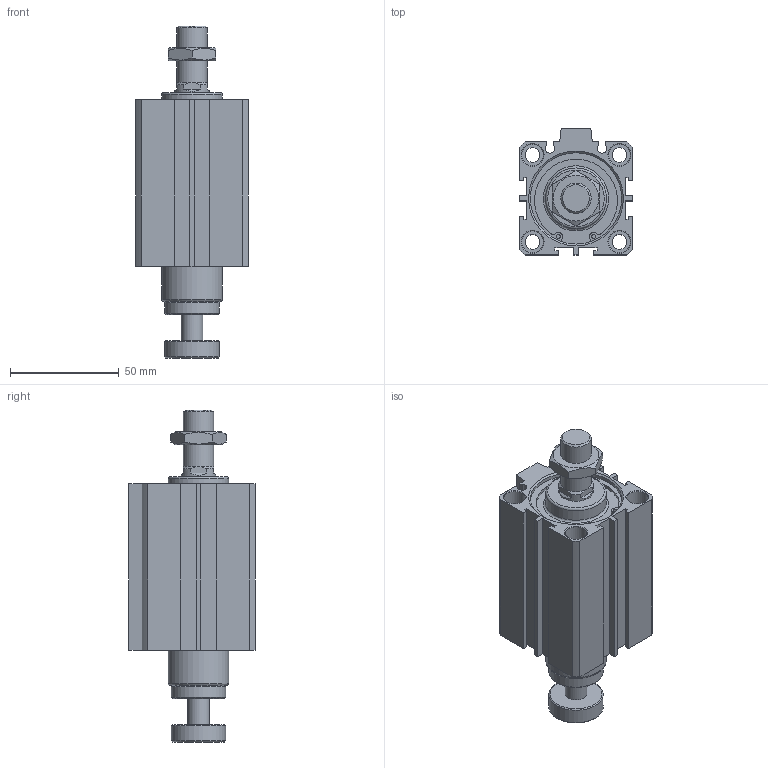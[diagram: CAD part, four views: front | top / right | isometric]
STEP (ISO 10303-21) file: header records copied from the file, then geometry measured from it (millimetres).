
FILE_DESCRIPTION((''),'2;1');
FILE_NAME('I:\3D電子目錄\氣缸\JDAR\JDAR-BS\JDAR40-BS\JDAR40x40-BS.stp','2007-05-05T14:13:41',('662F206'),(''),'Autodesk Inventor 11','Autodesk Inventor 11','');
FILE_SCHEMA(('AUTOMOTIVE_DESIGN { 1 0 10303 214 1 1 1 1 }'));
Length unit declared in the file: millimetre
Products named in the file (3): JDAR40-BS; R 形環 42
Assembly tree (3 placements, depth 2):
  JDAR40-BS
    JDAR40-BS
    R 形環 42  x2
Bounding box: 52 x 58 x 152.8 mm (x, y, z)
Volume: 203425.6 mm3; surface area: 45462.6 mm2
Topology: 3 solids, 3 shells, 179 faces, 418 edges, 271 vertices
Faces by surface type: plane 100, cylinder 50, cone 25, bspline 2, torus 2
Full cylindrical faces by diameter (mm): 1.9 x4, 2.2 x2, 6.8 x4, 10 x9, 14 x2, 16 x1, 25 x2, 28 x2, 42 x4, 44.5 x2
Entity records: 4585 total; most frequent: CARTESIAN_POINT 873, DIRECTION 770, ORIENTED_EDGE 654, EDGE_CURVE 327, AXIS2_PLACEMENT_3D 292, EDGE_LOOP 260, VERTEX_POINT 245, VECTOR 186
